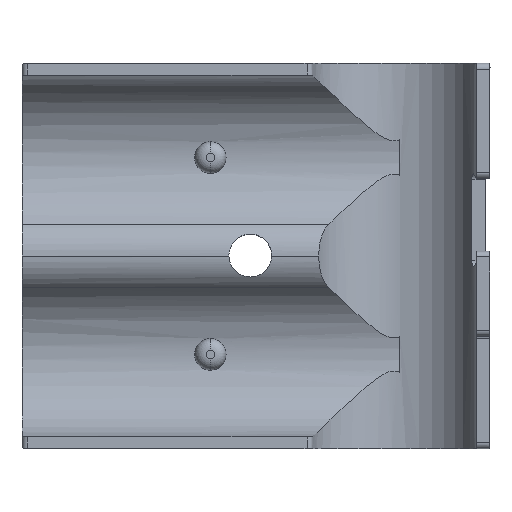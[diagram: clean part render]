
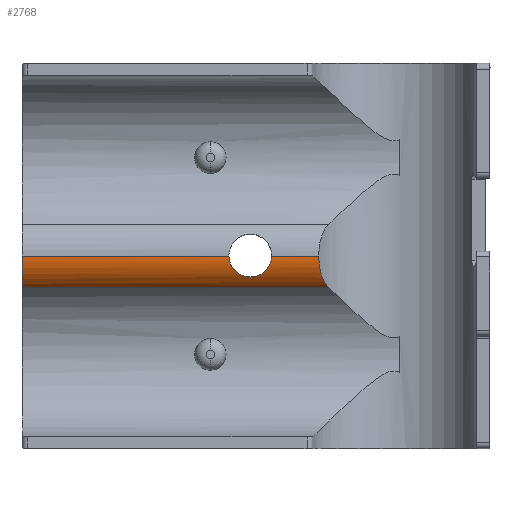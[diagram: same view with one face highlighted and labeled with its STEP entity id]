
A CAD part, front view. The second image highlights one B-rep face of the part: STEP entity #2768.
In plain terms, the highlighted cylindrical face has radius 7 mm (diameter 14 mm), a partial arc.
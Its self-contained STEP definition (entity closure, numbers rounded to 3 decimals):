
#2 = EDGE_CURVE ( 'NONE', #317, #899, #1433, .T. ) ;
#55 = CARTESIAN_POINT ( 'NONE',  ( -27.655, 6.617, 30.971 ) ) ;
#73 = CARTESIAN_POINT ( 'NONE',  ( -13.162, 6.085, 32.623 ) ) ;
#87 = CARTESIAN_POINT ( 'NONE',  ( -12.64, 7.107, 30.061 ) ) ;
#114 = CARTESIAN_POINT ( 'NONE',  ( -65.2, 6.001, 33.75 ) ) ;
#174 = CARTESIAN_POINT ( 'NONE',  ( -23.987, 6.99, 30.259 ) ) ;
#211 = VECTOR ( 'NONE', #2019, 1000. ) ;
#212 = VERTEX_POINT ( 'NONE', #572 ) ;
#297 = CARTESIAN_POINT ( 'NONE',  ( -28.149, 6.408, 31.487 ) ) ;
#317 = VERTEX_POINT ( 'NONE', #114 ) ;
#341 = DIRECTION ( 'NONE',  ( 0., 0., -1. ) ) ;
#404 = CARTESIAN_POINT ( 'NONE',  ( -21.977, 6.278, 31.884 ) ) ;
#416 = AXIS2_PLACEMENT_3D ( 'NONE', #3026, #1725, #1217 ) ;
#418 = CARTESIAN_POINT ( 'NONE',  ( -21.859, 6.22, 32.095 ) ) ;
#534 = ORIENTED_EDGE ( 'NONE', *, *, #2610, .F. ) ;
#572 = CARTESIAN_POINT ( 'NONE',  ( -65.2, 8.865, 28.202 ) ) ;
#675 = LINE ( 'NONE', #1264, #3358 ) ;
#769 = CARTESIAN_POINT ( 'NONE',  ( -11.766, 8.477, 28.501 ) ) ;
#816 = CARTESIAN_POINT ( 'NONE',  ( -27.068, 6.822, 30.555 ) ) ;
#830 = CARTESIAN_POINT ( 'NONE',  ( -27.994, 6.477, 31.303 ) ) ;
#840 = CARTESIAN_POINT ( 'NONE',  ( -28.539, 6.22, 32.093 ) ) ;
#899 = VERTEX_POINT ( 'NONE', #2832 ) ;
#900 = ORIENTED_EDGE ( 'NONE', *, *, #3086, .F. ) ;
#956 = CARTESIAN_POINT ( 'NONE',  ( -21.451, 6.001, 33.75 ) ) ;
#959 = CYLINDRICAL_SURFACE ( 'NONE', #416, 7. ) ;
#982 = VERTEX_POINT ( 'NONE', #3167 ) ;
#1006 = CARTESIAN_POINT ( 'NONE',  ( -11.475, 8.865, 28.202 ) ) ;
#1033 = CARTESIAN_POINT ( 'NONE',  ( -11.625, 8.67, 28.344 ) ) ;
#1084 = CARTESIAN_POINT ( 'NONE',  ( -26.857, 6.884, 30.443 ) ) ;
#1122 = CARTESIAN_POINT ( 'NONE',  ( -12.857, 6.707, 30.773 ) ) ;
#1136 = VERTEX_POINT ( 'NONE', #1914 ) ;
#1200 = CARTESIAN_POINT ( 'NONE',  ( -21.591, 6.08, 32.768 ) ) ;
#1217 = DIRECTION ( 'NONE',  ( 0., 0., 1. ) ) ;
#1264 = CARTESIAN_POINT ( 'NONE',  ( -40.446, 6.001, 33.75 ) ) ;
#1302 = B_SPLINE_CURVE_WITH_KNOTS ( 'NONE', 3,
 ( #3289, #1730, #3051, #2766, #174, #2005, #1491, #1719, #2231, #2479, #1982, #404, #418, #2504, #1200, #2242, #3041, #956 ),
 .UNSPECIFIED., .F., .F.,
 ( 4, 2, 2, 2, 2, 2, 2, 2, 4 ),
 ( 0.006, 0.007, 0.007, 0.008, 0.009, 0.01, 0.01, 0.011, 0.012 ),
 .UNSPECIFIED. ) ;
#1326 = VECTOR ( 'NONE', #3208, 1000. ) ;
#1332 = CARTESIAN_POINT ( 'NONE',  ( -26.175, 7.035, 30.186 ) ) ;
#1352 = VERTEX_POINT ( 'NONE', #2845 ) ;
#1378 = CARTESIAN_POINT ( 'NONE',  ( -13.061, 6.298, 31.809 ) ) ;
#1433 = LINE ( 'NONE', #1742, #211 ) ;
#1491 = CARTESIAN_POINT ( 'NONE',  ( -23.326, 6.82, 30.559 ) ) ;
#1504 = ORIENTED_EDGE ( 'NONE', *, *, #2388, .F. ) ;
#1606 = CARTESIAN_POINT ( 'NONE',  ( -12.025, 8.105, 28.839 ) ) ;
#1627 = CARTESIAN_POINT ( 'NONE',  ( -13.196, 6.009, 33.18 ) ) ;
#1719 = CARTESIAN_POINT ( 'NONE',  ( -22.928, 6.687, 30.823 ) ) ;
#1725 = DIRECTION ( 'NONE',  ( -1., 0., 0. ) ) ;
#1730 = CARTESIAN_POINT ( 'NONE',  ( -24.953, 7.111, 30.066 ) ) ;
#1742 = CARTESIAN_POINT ( 'NONE',  ( -40.446, 6.001, 33.75 ) ) ;
#1793 = EDGE_LOOP ( 'NONE', ( #900, #2050, #3303, #3166, #534, #2687, #1504 ) ) ;
#1846 = CARTESIAN_POINT ( 'NONE',  ( -28.916, 6.021, 33.254 ) ) ;
#1882 = CARTESIAN_POINT ( 'NONE',  ( -28.422, 6.279, 31.883 ) ) ;
#1892 = CARTESIAN_POINT ( 'NONE',  ( -13.018, 6.386, 31.539 ) ) ;
#1902 = CARTESIAN_POINT ( 'NONE',  ( -12.361, 7.582, 29.41 ) ) ;
#1914 = CARTESIAN_POINT ( 'NONE',  ( -13.2, 6.001, 33.75 ) ) ;
#1921 = B_SPLINE_CURVE_WITH_KNOTS ( 'NONE', 3,
 ( #2911, #1627, #73, #1378, #1892, #2675, #1122, #2071, #87, #3114, #1902, #2323, #1606, #769, #1033, #2848 ),
 .UNSPECIFIED., .F., .F.,
 ( 4, 2, 2, 2, 2, 2, 2, 4 ),
 ( 0., 0.002, 0.003, 0.003, 0.004, 0.005, 0.006, 0.007 ),
 .UNSPECIFIED. ) ;
#1962 = EDGE_CURVE ( 'NONE', #3064, #212, #2023, .T. ) ;
#1982 = CARTESIAN_POINT ( 'NONE',  ( -22.25, 6.407, 31.488 ) ) ;
#2005 = CARTESIAN_POINT ( 'NONE',  ( -23.537, 6.882, 30.446 ) ) ;
#2019 = DIRECTION ( 'NONE',  ( 1., 0., 0. ) ) ;
#2023 = LINE ( 'NONE', #3152, #1326 ) ;
#2050 = ORIENTED_EDGE ( 'NONE', *, *, #2, .F. ) ;
#2071 = CARTESIAN_POINT ( 'NONE',  ( -12.718, 6.965, 30.292 ) ) ;
#2098 = FACE_OUTER_BOUND ( 'NONE', #1793, .T. ) ;
#2106 = CARTESIAN_POINT ( 'NONE',  ( -28.949, 6.001, 33.75 ) ) ;
#2130 = CARTESIAN_POINT ( 'NONE',  ( -25.692, 7.095, 30.09 ) ) ;
#2146 = EDGE_CURVE ( 'NONE', #212, #317, #2663, .T. ) ;
#2231 = CARTESIAN_POINT ( 'NONE',  ( -22.741, 6.615, 30.975 ) ) ;
#2242 = CARTESIAN_POINT ( 'NONE',  ( -21.484, 6.021, 33.253 ) ) ;
#2323 = CARTESIAN_POINT ( 'NONE',  ( -12.144, 7.926, 29.02 ) ) ;
#2350 = CARTESIAN_POINT ( 'NONE',  ( -28.811, 6.079, 32.775 ) ) ;
#2363 = CARTESIAN_POINT ( 'NONE',  ( -27.468, 6.688, 30.82 ) ) ;
#2386 = CARTESIAN_POINT ( 'NONE',  ( -28.945, 6.004, 33.499 ) ) ;
#2388 = EDGE_CURVE ( 'NONE', #982, #1352, #1302, .T. ) ;
#2394 = CARTESIAN_POINT ( 'NONE',  ( -25.447, 7.111, 30.066 ) ) ;
#2479 = CARTESIAN_POINT ( 'NONE',  ( -22.403, 6.476, 31.307 ) ) ;
#2504 = CARTESIAN_POINT ( 'NONE',  ( -21.667, 6.121, 32.536 ) ) ;
#2610 = EDGE_CURVE ( 'NONE', #1136, #3064, #1921, .T. ) ;
#2638 = CARTESIAN_POINT ( 'NONE',  ( -28.734, 6.12, 32.538 ) ) ;
#2657 = CARTESIAN_POINT ( 'NONE',  ( -26.412, 6.99, 30.259 ) ) ;
#2663 = CIRCLE ( 'NONE', #2916, 7. ) ;
#2675 = CARTESIAN_POINT ( 'NONE',  ( -12.916, 6.591, 31.022 ) ) ;
#2687 = ORIENTED_EDGE ( 'NONE', *, *, #2981, .F. ) ;
#2730 = DIRECTION ( 'NONE',  ( 1., 0., 0. ) ) ;
#2734 = B_SPLINE_CURVE_WITH_KNOTS ( 'NONE', 3,
 ( #2106, #2386, #1846, #2350, #2638, #840, #1882, #297, #830, #55, #2363, #816, #1084, #2657, #1332, #2130, #2394, #2884 ),
 .UNSPECIFIED., .F., .F.,
 ( 4, 2, 2, 2, 2, 2, 2, 2, 4 ),
 ( 0., 0.001, 0.001, 0.002, 0.003, 0.004, 0.004, 0.005, 0.006 ),
 .UNSPECIFIED. ) ;
#2766 = CARTESIAN_POINT ( 'NONE',  ( -24.222, 7.034, 30.187 ) ) ;
#2768 = ADVANCED_FACE ( 'NONE', ( #2098 ), #959, .T. ) ;
#2832 = CARTESIAN_POINT ( 'NONE',  ( -28.949, 6.001, 33.75 ) ) ;
#2845 = CARTESIAN_POINT ( 'NONE',  ( -21.451, 6.001, 33.75 ) ) ;
#2848 = CARTESIAN_POINT ( 'NONE',  ( -11.475, 8.865, 28.202 ) ) ;
#2884 = CARTESIAN_POINT ( 'NONE',  ( -25.2, 7.111, 30.066 ) ) ;
#2911 = CARTESIAN_POINT ( 'NONE',  ( -13.2, 6.001, 33.75 ) ) ;
#2916 = AXIS2_PLACEMENT_3D ( 'NONE', #2942, #3196, #341 ) ;
#2942 = CARTESIAN_POINT ( 'NONE',  ( -65.2, 13., 33.85 ) ) ;
#2981 = EDGE_CURVE ( 'NONE', #1352, #1136, #675, .T. ) ;
#3026 = CARTESIAN_POINT ( 'NONE',  ( 16.801, 13., 33.85 ) ) ;
#3041 = CARTESIAN_POINT ( 'NONE',  ( -21.455, 6.004, 33.5 ) ) ;
#3051 = CARTESIAN_POINT ( 'NONE',  ( -24.702, 7.094, 30.091 ) ) ;
#3064 = VERTEX_POINT ( 'NONE', #1006 ) ;
#3086 = EDGE_CURVE ( 'NONE', #899, #982, #2734, .T. ) ;
#3114 = CARTESIAN_POINT ( 'NONE',  ( -12.461, 7.417, 29.618 ) ) ;
#3152 = CARTESIAN_POINT ( 'NONE',  ( 16.801, 8.865, 28.202 ) ) ;
#3166 = ORIENTED_EDGE ( 'NONE', *, *, #1962, .F. ) ;
#3167 = CARTESIAN_POINT ( 'NONE',  ( -25.2, 7.111, 30.066 ) ) ;
#3196 = DIRECTION ( 'NONE',  ( -1., 0., 0. ) ) ;
#3208 = DIRECTION ( 'NONE',  ( -1., 0., 0. ) ) ;
#3289 = CARTESIAN_POINT ( 'NONE',  ( -25.2, 7.111, 30.066 ) ) ;
#3303 = ORIENTED_EDGE ( 'NONE', *, *, #2146, .F. ) ;
#3358 = VECTOR ( 'NONE', #2730, 1000. ) ;
